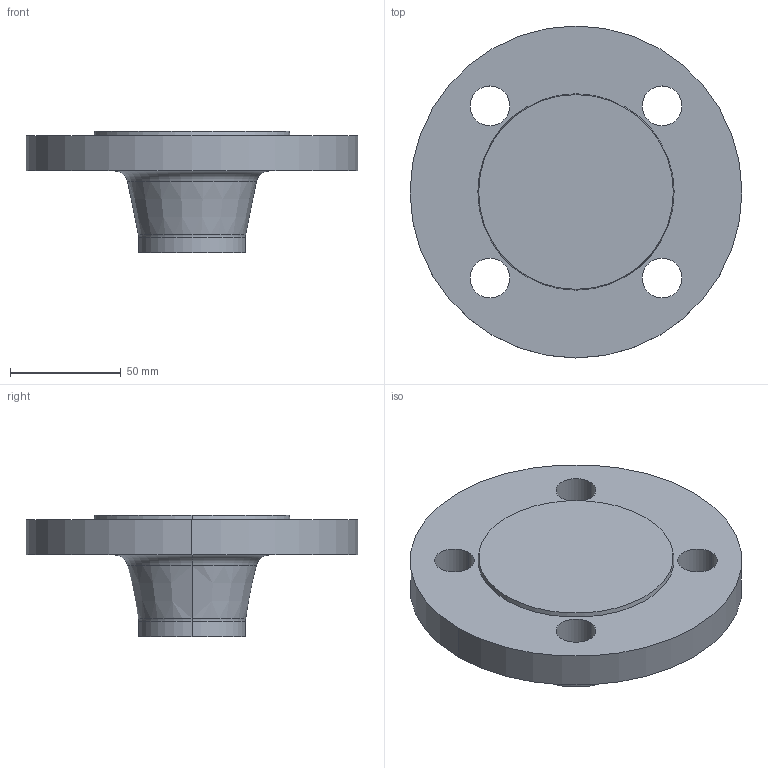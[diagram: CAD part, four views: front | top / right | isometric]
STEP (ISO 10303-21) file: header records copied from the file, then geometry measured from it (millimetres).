
FILE_DESCRIPTION (( 'STEP AP214' ), '1' );
FILE_NAME ('PN40 DN40 Type 21(ii) - Type B Face.STEP', '2018-12-30T01:29:27', ( '' ), ( '' ), 'SwSTEP 2.0', 'SolidWorks 2019', '' );
FILE_SCHEMA (( 'AUTOMOTIVE_DESIGN' ));
Length unit declared in the file: millimetre
Products named in the file (1): PN40 DN40 Type 21(ii) - Type B Face
Bounding box: 150 x 150 x 55 mm (x, y, z)
Volume: 361780.2 mm3; surface area: 49894.6 mm2
Topology: 1 solids, 1 shells, 24 faces, 54 edges, 34 vertices
Faces by surface type: cylinder 12, torus 4, cone 4, plane 4
Entity records: 738 total; most frequent: DIRECTION 142, CARTESIAN_POINT 113, ORIENTED_EDGE 108, AXIS2_PLACEMENT_3D 63, EDGE_CURVE 54, CIRCLE 38, VERTEX_POINT 34, EDGE_LOOP 34
